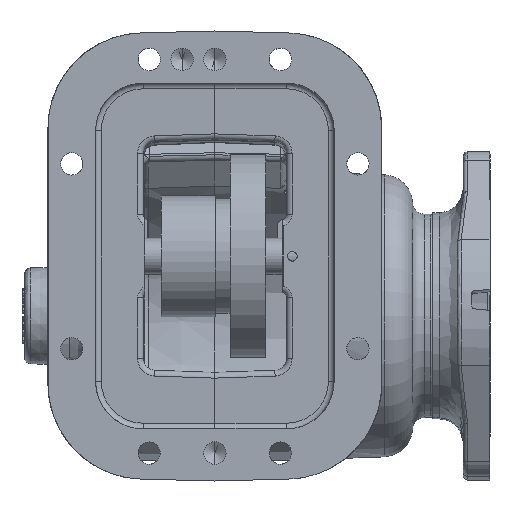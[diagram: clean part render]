
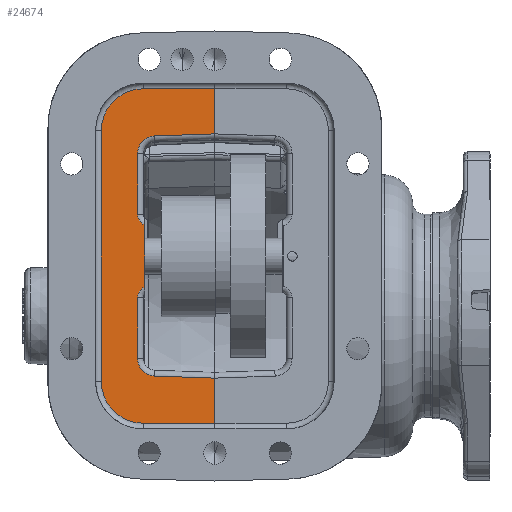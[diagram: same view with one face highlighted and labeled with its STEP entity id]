
A CAD part, front view. The second image highlights one B-rep face of the part: STEP entity #24674.
In plain terms, the highlighted planar face has unit normal (0, -1, 0).
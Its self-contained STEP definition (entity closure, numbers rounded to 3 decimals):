
#1334 = DIRECTION ( 'NONE',  ( 0., 1., 0. ) ) ;
#1336 = CARTESIAN_POINT ( 'NONE',  ( -99.29, -133.047, -95.578 ) ) ;
#1337 = PLANE ( 'NONE',  #35641 ) ;
#1339 = DIRECTION ( 'NONE',  ( 0., 0., -1. ) ) ;
#4234 = LINE ( 'NONE', #108568, #4242 ) ;
#4242 = VECTOR ( 'NONE', #108579, 1000. ) ;
#4254 = LINE ( 'NONE', #108603, #4262 ) ;
#4262 = VECTOR ( 'NONE', #108614, 1000. ) ;
#4271 = CIRCLE ( 'NONE', #95459, 9.398 ) ;
#4273 = LINE ( 'NONE', #108763, #4285 ) ;
#4283 = CIRCLE ( 'NONE', #95457, 6.096 ) ;
#4285 = VECTOR ( 'NONE', #108764, 1000. ) ;
#4287 = LINE ( 'NONE', #108785, #4291 ) ;
#4289 = LINE ( 'NONE', #108795, #4297 ) ;
#4291 = VECTOR ( 'NONE', #108786, 1000. ) ;
#4293 = LINE ( 'NONE', #108794, #4301 ) ;
#4295 = CIRCLE ( 'NONE', #95461, 22.352 ) ;
#4297 = VECTOR ( 'NONE', #108793, 1000. ) ;
#4299 = LINE ( 'NONE', #108801, #4307 ) ;
#4301 = VECTOR ( 'NONE', #108799, 1000. ) ;
#4303 = CIRCLE ( 'NONE', #95463, 22.352 ) ;
#4305 = LINE ( 'NONE', #108807, #4314 ) ;
#4307 = VECTOR ( 'NONE', #108800, 1000. ) ;
#4309 = LINE ( 'NONE', #108806, #4318 ) ;
#4311 = CIRCLE ( 'NONE', #95465, 9.398 ) ;
#4314 = VECTOR ( 'NONE', #108805, 1000. ) ;
#4316 = LINE ( 'NONE', #108813, #4324 ) ;
#4318 = VECTOR ( 'NONE', #108811, 1000. ) ;
#4320 = CIRCLE ( 'NONE', #95467, 6.096 ) ;
#4324 = VECTOR ( 'NONE', #108812, 1000. ) ;
#24674 = ADVANCED_FACE ( 'NONE', ( #82571 ), #1337, .F. ) ;
#27711 = VERTEX_POINT ( 'NONE', #64650 ) ;
#27903 = VERTEX_POINT ( 'NONE', #64925 ) ;
#27909 = VERTEX_POINT ( 'NONE', #64933 ) ;
#27911 = VERTEX_POINT ( 'NONE', #64936 ) ;
#27913 = VERTEX_POINT ( 'NONE', #64939 ) ;
#27915 = VERTEX_POINT ( 'NONE', #64942 ) ;
#27917 = VERTEX_POINT ( 'NONE', #64945 ) ;
#27921 = VERTEX_POINT ( 'NONE', #64950 ) ;
#27923 = VERTEX_POINT ( 'NONE', #64953 ) ;
#27925 = VERTEX_POINT ( 'NONE', #64956 ) ;
#27931 = VERTEX_POINT ( 'NONE', #64965 ) ;
#27933 = VERTEX_POINT ( 'NONE', #64967 ) ;
#27935 = VERTEX_POINT ( 'NONE', #64970 ) ;
#27949 = VERTEX_POINT ( 'NONE', #64990 ) ;
#27987 = VERTEX_POINT ( 'NONE', #65045 ) ;
#28001 = VERTEX_POINT ( 'NONE', #65065 ) ;
#35641 = AXIS2_PLACEMENT_3D ( 'NONE', #1336, #1334, #1339 ) ;
#41844 = EDGE_CURVE ( 'NONE', #28001, #27711, #4234, .T. ) ;
#41858 = EDGE_CURVE ( 'NONE', #27933, #27925, #4254, .T. ) ;
#41897 = EDGE_CURVE ( 'NONE', #27949, #27921, #4273, .T. ) ;
#41900 = EDGE_CURVE ( 'NONE', #27935, #27949, #4283, .T. ) ;
#41902 = EDGE_CURVE ( 'NONE', #27923, #27935, #4287, .T. ) ;
#41904 = EDGE_CURVE ( 'NONE', #27987, #27923, #4271, .T. ) ;
#41907 = EDGE_CURVE ( 'NONE', #27933, #27987, #4289, .T. ) ;
#41909 = EDGE_CURVE ( 'NONE', #27931, #27925, #4293, .T. ) ;
#41911 = EDGE_CURVE ( 'NONE', #27911, #27931, #4295, .T. ) ;
#41914 = EDGE_CURVE ( 'NONE', #27917, #27911, #4299, .T. ) ;
#41916 = EDGE_CURVE ( 'NONE', #27915, #27917, #4303, .T. ) ;
#41918 = EDGE_CURVE ( 'NONE', #28001, #27915, #4305, .T. ) ;
#41921 = EDGE_CURVE ( 'NONE', #27913, #27711, #4309, .T. ) ;
#41923 = EDGE_CURVE ( 'NONE', #27903, #27913, #4311, .T. ) ;
#41925 = EDGE_CURVE ( 'NONE', #27909, #27903, #4316, .T. ) ;
#41928 = EDGE_CURVE ( 'NONE', #27921, #27909, #4320, .T. ) ;
#51797 = ORIENTED_EDGE ( 'NONE', *, *, #41897, .F. ) ;
#51802 = ORIENTED_EDGE ( 'NONE', *, *, #41900, .F. ) ;
#51806 = ORIENTED_EDGE ( 'NONE', *, *, #41902, .F. ) ;
#51810 = ORIENTED_EDGE ( 'NONE', *, *, #41904, .F. ) ;
#51815 = ORIENTED_EDGE ( 'NONE', *, *, #41907, .F. ) ;
#51819 = ORIENTED_EDGE ( 'NONE', *, *, #41858, .T. ) ;
#51823 = ORIENTED_EDGE ( 'NONE', *, *, #41909, .F. ) ;
#51828 = ORIENTED_EDGE ( 'NONE', *, *, #41911, .F. ) ;
#51832 = ORIENTED_EDGE ( 'NONE', *, *, #41914, .F. ) ;
#51836 = ORIENTED_EDGE ( 'NONE', *, *, #41916, .F. ) ;
#51841 = ORIENTED_EDGE ( 'NONE', *, *, #41918, .F. ) ;
#51845 = ORIENTED_EDGE ( 'NONE', *, *, #41844, .T. ) ;
#51849 = ORIENTED_EDGE ( 'NONE', *, *, #41921, .F. ) ;
#51854 = ORIENTED_EDGE ( 'NONE', *, *, #41923, .F. ) ;
#51858 = ORIENTED_EDGE ( 'NONE', *, *, #41925, .F. ) ;
#51862 = ORIENTED_EDGE ( 'NONE', *, *, #41928, .F. ) ;
#64650 = CARTESIAN_POINT ( 'NONE',  ( -10.39, -133.047, -43.129 ) ) ;
#64925 = CARTESIAN_POINT ( 'NONE',  ( -51.538, -133.047, -32.617 ) ) ;
#64933 = CARTESIAN_POINT ( 'NONE',  ( -51.538, -133.047, -0.265 ) ) ;
#64936 = CARTESIAN_POINT ( 'NONE',  ( -70.842, -133.047, 88.572 ) ) ;
#64939 = CARTESIAN_POINT ( 'NONE',  ( -42.468, -133.047, -42.009 ) ) ;
#64942 = CARTESIAN_POINT ( 'NONE',  ( -48.49, -133.047, -67.13 ) ) ;
#64945 = CARTESIAN_POINT ( 'NONE',  ( -70.842, -133.047, -44.778 ) ) ;
#64950 = CARTESIAN_POINT ( 'NONE',  ( -47.728, -133.047, 5.386 ) ) ;
#64953 = CARTESIAN_POINT ( 'NONE',  ( -51.538, -133.047, 76.41 ) ) ;
#64956 = CARTESIAN_POINT ( 'NONE',  ( -10.39, -133.047, 110.924 ) ) ;
#64965 = CARTESIAN_POINT ( 'NONE',  ( -48.49, -133.047, 110.924 ) ) ;
#64967 = CARTESIAN_POINT ( 'NONE',  ( -10.39, -133.047, 86.923 ) ) ;
#64970 = CARTESIAN_POINT ( 'NONE',  ( -51.538, -133.047, 44.059 ) ) ;
#64990 = CARTESIAN_POINT ( 'NONE',  ( -47.728, -133.047, 38.408 ) ) ;
#65045 = CARTESIAN_POINT ( 'NONE',  ( -42.468, -133.047, 85.803 ) ) ;
#65065 = CARTESIAN_POINT ( 'NONE',  ( -10.39, -133.047, -67.13 ) ) ;
#82571 = FACE_OUTER_BOUND ( 'NONE', #97986, .T. ) ;
#95457 = AXIS2_PLACEMENT_3D ( 'NONE', #108790, #108791, #108792 ) ;
#95459 = AXIS2_PLACEMENT_3D ( 'NONE', #108796, #108797, #108798 ) ;
#95461 = AXIS2_PLACEMENT_3D ( 'NONE', #108802, #108803, #108804 ) ;
#95463 = AXIS2_PLACEMENT_3D ( 'NONE', #108808, #108809, #108810 ) ;
#95465 = AXIS2_PLACEMENT_3D ( 'NONE', #108814, #108815, #108816 ) ;
#95467 = AXIS2_PLACEMENT_3D ( 'NONE', #108821, #108822, #108823 ) ;
#97986 = EDGE_LOOP ( 'NONE', ( #51797, #51802, #51806, #51810, #51815, #51819, #51823, #51828, #51832, #51836, #51841, #51845, #51849, #51854, #51858, #51862 ) ) ;
#108568 = CARTESIAN_POINT ( 'NONE',  ( -10.39, -133.047, -95.578 ) ) ;
#108579 = DIRECTION ( 'NONE',  ( 0., 0., 1. ) ) ;
#108603 = CARTESIAN_POINT ( 'NONE',  ( -10.39, -133.047, -95.578 ) ) ;
#108614 = DIRECTION ( 'NONE',  ( 0., 0., 1. ) ) ;
#108763 = CARTESIAN_POINT ( 'NONE',  ( -47.728, -133.047, -95.578 ) ) ;
#108764 = DIRECTION ( 'NONE',  ( 0., 0., -1. ) ) ;
#108785 = CARTESIAN_POINT ( 'NONE',  ( -51.538, -133.047, 44.059 ) ) ;
#108786 = DIRECTION ( 'NONE',  ( 0., 0., -1. ) ) ;
#108790 = CARTESIAN_POINT ( 'NONE',  ( -45.442, -133.047, 44.059 ) ) ;
#108791 = DIRECTION ( 'NONE',  ( 0., -1., 0. ) ) ;
#108792 = DIRECTION ( 'NONE',  ( 0., 0., -1. ) ) ;
#108793 = DIRECTION ( 'NONE',  ( -0.999, 0., -0.035 ) ) ;
#108794 = CARTESIAN_POINT ( 'NONE',  ( -10.39, -133.047, 110.924 ) ) ;
#108795 = CARTESIAN_POINT ( 'NONE',  ( -42.468, -133.047, 85.803 ) ) ;
#108796 = CARTESIAN_POINT ( 'NONE',  ( -42.14, -133.047, 76.41 ) ) ;
#108797 = DIRECTION ( 'NONE',  ( 0., -1., 0. ) ) ;
#108798 = DIRECTION ( 'NONE',  ( 0., 0., -1. ) ) ;
#108799 = DIRECTION ( 'NONE',  ( 1., 0., 0. ) ) ;
#108800 = DIRECTION ( 'NONE',  ( 0., 0., 1. ) ) ;
#108801 = CARTESIAN_POINT ( 'NONE',  ( -70.842, -133.047, 88.572 ) ) ;
#108802 = CARTESIAN_POINT ( 'NONE',  ( -48.49, -133.047, 88.572 ) ) ;
#108803 = DIRECTION ( 'NONE',  ( 0., 1., 0. ) ) ;
#108804 = DIRECTION ( 'NONE',  ( 0., 0., -1. ) ) ;
#108805 = DIRECTION ( 'NONE',  ( -1., 0., 0. ) ) ;
#108806 = CARTESIAN_POINT ( 'NONE',  ( -10.497, -133.047, -43.125 ) ) ;
#108807 = CARTESIAN_POINT ( 'NONE',  ( -48.49, -133.047, -67.13 ) ) ;
#108808 = CARTESIAN_POINT ( 'NONE',  ( -48.49, -133.047, -44.778 ) ) ;
#108809 = DIRECTION ( 'NONE',  ( 0., 1., 0. ) ) ;
#108810 = DIRECTION ( 'NONE',  ( 0., 0., -1. ) ) ;
#108811 = DIRECTION ( 'NONE',  ( 0.999, 0., -0.035 ) ) ;
#108812 = DIRECTION ( 'NONE',  ( 0., 0., -1. ) ) ;
#108813 = CARTESIAN_POINT ( 'NONE',  ( -51.538, -133.047, -32.617 ) ) ;
#108814 = CARTESIAN_POINT ( 'NONE',  ( -42.14, -133.047, -32.617 ) ) ;
#108815 = DIRECTION ( 'NONE',  ( 0., -1., 0. ) ) ;
#108816 = DIRECTION ( 'NONE',  ( 0., 0., -1. ) ) ;
#108821 = CARTESIAN_POINT ( 'NONE',  ( -45.442, -133.047, -0.265 ) ) ;
#108822 = DIRECTION ( 'NONE',  ( 0., -1., 0. ) ) ;
#108823 = DIRECTION ( 'NONE',  ( 0., 0., -1. ) ) ;
